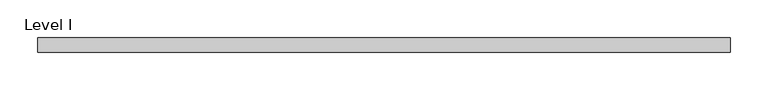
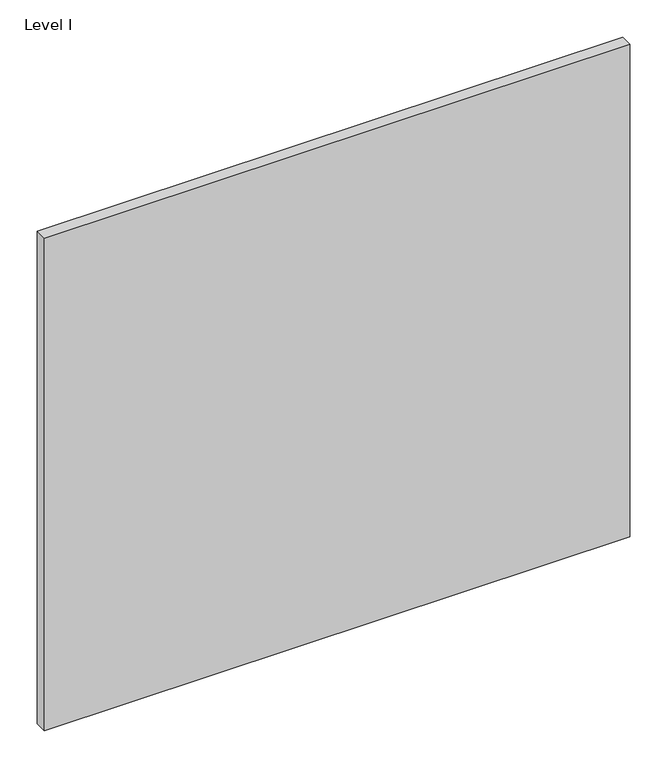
"""IFC4 building model written with IfcOpenShell, lengths in millimetres: proxy geometry, Panel-Fascia-Teknion-Altos-Standard : Level I."""

from ifc_helpers import new_model, si_unit, frame, origin, place, context, project, spatial, polyline, outline, extrude, source, transform, mapped, element, save


def level_i_87b26980(model_context):
    return source(origin(), model_context, "Body", "SweptSolid", [
        extrude(outline(polyline([(455.6125, -9.525), (-455.6125, -9.525), (-455.6125, 9.525), (455.6125, 9.525), (455.6125, -9.525)])), frame((0.0, 0.0, 3.175), z_axis=(0.0, 0.0, 1.0), x_axis=(1.0, 0.0, 0.0)), (0.0, 0.0, 1.0), 810.768),
    ])


if __name__ == "__main__":
    model = new_model("IFC4")
    model_context = context("Model", 3, world=origin())
    ifc_project = project(units=[si_unit("LENGTHUNIT", "METRE", prefix="MILLI")], contexts=[model_context])
    site = spatial("IfcSite", under=ifc_project)
    building = spatial("IfcBuilding", under=site)
    placement = place(None, origin())
    level_i_shape = level_i_87b26980(model_context)
    element("IfcBuildingElementProxy", 1, Name="Panel-Fascia-Teknion-Altos-Standard : Level I", ObjectType="Panel-Fascia-Teknion-Altos-Standard : Level I", at=placement, inside=building, context=model_context, shape_type="MappedRepresentation", body=[
        mapped(level_i_shape, transform((0.0, 0.0, 0.0), x_axis=(1.0, 0.0, 0.0), y_axis=(0.0, 1.0, 0.0), z_axis=(0.0, 0.0, 1.0))),
    ])
    save(model, "model.ifc")
